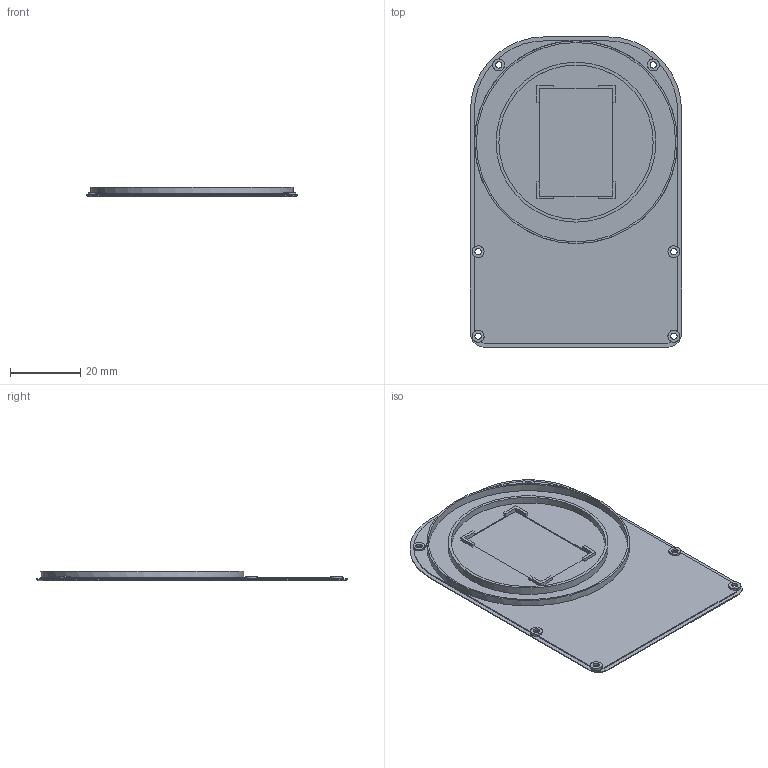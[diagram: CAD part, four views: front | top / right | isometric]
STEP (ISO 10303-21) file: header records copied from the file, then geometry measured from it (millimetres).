
FILE_DESCRIPTION(('Open CASCADE Model'),'2;1');
FILE_NAME('Open CASCADE Shape Model','2026-10-23T21:53:46',('Author'),( 'Open CASCADE'),'Open CASCADE STEP processor 8.0','build123d', 'Unknown');
FILE_SCHEMA(('AUTOMOTIVE_DESIGN { 1 0 10303 214 1 1 1 1 }'));
Length unit declared in the file: millimetre
Products named in the file (1): COMPOUND
Bounding box: 60 x 88.1 x 2.7 mm (x, y, z)
Volume: 3917.2 mm3; surface area: 11796 mm2
Topology: 1 solids, 1 shells, 89 faces, 232 edges, 150 vertices
Faces by surface type: plane 53, cylinder 26, cone 10
Full cylindrical faces by diameter (mm): 1.8 x6, 3.4 x6, 43.8 x1, 45.4 x1, 56.6 x1, 57.6 x1
Entity records: 5720 total; most frequent: CARTESIAN_POINT 1050, DIRECTION 868, LINE 476, VECTOR 476, ORIENTED_EDGE 464, PCURVE 464, DEFINITIONAL_REPRESENTATION 464, EDGE_CURVE 232
